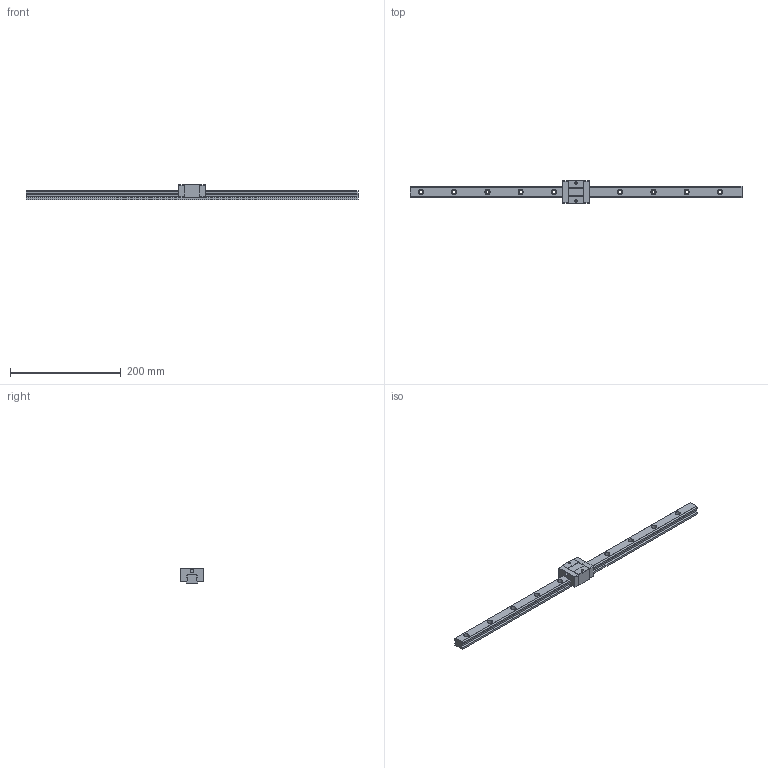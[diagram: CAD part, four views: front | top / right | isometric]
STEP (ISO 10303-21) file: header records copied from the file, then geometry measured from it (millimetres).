
FILE_DESCRIPTION (( 'STEP AP203' ), '1' );
FILE_NAME ('TRS20VS-XNC.STEP', '2024-08-16T07:18:27', ( '' ), ( '' ), 'SwSTEP 2.0', 'SolidWorks 2021', '' );
FILE_SCHEMA (( 'CONFIG_CONTROL_DESIGN' ));
Length unit declared in the file: millimetre
Products named in the file (1): TRS20VS-XNC
Bounding box: 600 x 42 x 28 mm (x, y, z)
Volume: 203798.8 mm3; surface area: 57113.9 mm2
Topology: 1 solids, 1 shells, 171 faces, 464 edges, 306 vertices
Faces by surface type: plane 87, cylinder 84
Entity records: 5549 total; most frequent: DIRECTION 978, CARTESIAN_POINT 942, ORIENTED_EDGE 928, EDGE_CURVE 464, AXIS2_PLACEMENT_3D 342, VERTEX_POINT 306, VECTOR 294, LINE 294
